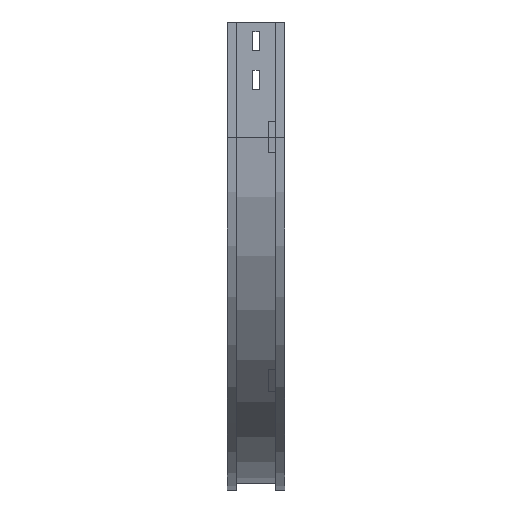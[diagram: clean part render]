
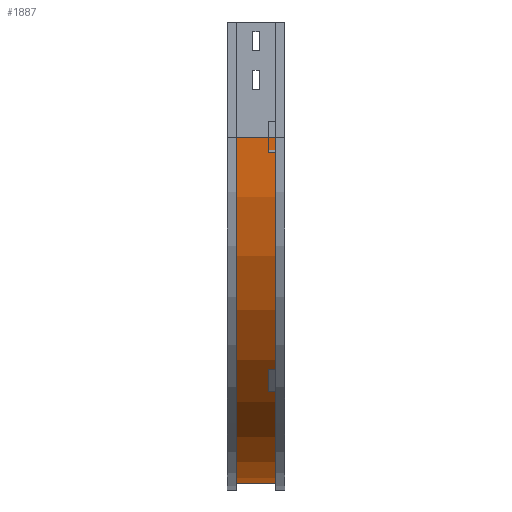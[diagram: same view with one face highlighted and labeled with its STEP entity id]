
A CAD part, left-side view. The second image highlights one B-rep face of the part: STEP entity #1887.
In plain terms, the highlighted cylindrical face has radius 450 mm (diameter 900 mm), a partial arc.
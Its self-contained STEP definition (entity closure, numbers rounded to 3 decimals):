
#27 = CYLINDRICAL_SURFACE ( 'NONE', #1033, 450. ) ;
#46 = CIRCLE ( 'NONE', #1699, 450. ) ;
#65 = EDGE_CURVE ( 'NONE', #896, #740, #2713, .T. ) ;
#85 = DIRECTION ( 'NONE',  ( 0., -1., 0. ) ) ;
#145 = ORIENTED_EDGE ( 'NONE', *, *, #339, .T. ) ;
#189 = ORIENTED_EDGE ( 'NONE', *, *, #2997, .T. ) ;
#246 = VECTOR ( 'NONE', #1841, 1000. ) ;
#280 = CARTESIAN_POINT ( 'NONE',  ( 459., 12., -600. ) ) ;
#339 = EDGE_CURVE ( 'NONE', #896, #3301, #46, .T. ) ;
#391 = EDGE_LOOP ( 'NONE', ( #2982, #1203, #145, #189 ) ) ;
#474 = DIRECTION ( 'NONE',  ( 0., -1., 0. ) ) ;
#499 = VERTEX_POINT ( 'NONE', #3297 ) ;
#670 = CARTESIAN_POINT ( 'NONE',  ( 459., 63., -150. ) ) ;
#740 = VERTEX_POINT ( 'NONE', #2921 ) ;
#755 = VECTOR ( 'NONE', #1605, 1000. ) ;
#896 = VERTEX_POINT ( 'NONE', #2670 ) ;
#1033 = AXIS2_PLACEMENT_3D ( 'NONE', #1088, #474, #2587 ) ;
#1088 = CARTESIAN_POINT ( 'NONE',  ( 459., 0., -150. ) ) ;
#1203 = ORIENTED_EDGE ( 'NONE', *, *, #65, .F. ) ;
#1287 = LINE ( 'NONE', #280, #246 ) ;
#1605 = DIRECTION ( 'NONE',  ( 0., -1., 0. ) ) ;
#1672 = AXIS2_PLACEMENT_3D ( 'NONE', #2733, #85, #2427 ) ;
#1699 = AXIS2_PLACEMENT_3D ( 'NONE', #670, #1963, #1751 ) ;
#1751 = DIRECTION ( 'NONE',  ( -1., 0., 0. ) ) ;
#1838 = CIRCLE ( 'NONE', #1672, 450. ) ;
#1841 = DIRECTION ( 'NONE',  ( 0., -1., 0. ) ) ;
#1887 = ADVANCED_FACE ( 'NONE', ( #2396 ), #27, .T. ) ;
#1963 = DIRECTION ( 'NONE',  ( 0., -1., 0. ) ) ;
#2396 = FACE_OUTER_BOUND ( 'NONE', #391, .T. ) ;
#2427 = DIRECTION ( 'NONE',  ( -1., 0., 0. ) ) ;
#2587 = DIRECTION ( 'NONE',  ( 0., 0., -1. ) ) ;
#2670 = CARTESIAN_POINT ( 'NONE',  ( 9., 63., -150. ) ) ;
#2713 = LINE ( 'NONE', #3219, #755 ) ;
#2733 = CARTESIAN_POINT ( 'NONE',  ( 459., 12., -150. ) ) ;
#2860 = EDGE_CURVE ( 'NONE', #740, #499, #1838, .T. ) ;
#2921 = CARTESIAN_POINT ( 'NONE',  ( 9., 12., -150. ) ) ;
#2982 = ORIENTED_EDGE ( 'NONE', *, *, #2860, .F. ) ;
#2997 = EDGE_CURVE ( 'NONE', #3301, #499, #1287, .T. ) ;
#3219 = CARTESIAN_POINT ( 'NONE',  ( 9., 12., -150. ) ) ;
#3297 = CARTESIAN_POINT ( 'NONE',  ( 459., 12., -600. ) ) ;
#3301 = VERTEX_POINT ( 'NONE', #3307 ) ;
#3307 = CARTESIAN_POINT ( 'NONE',  ( 459., 63., -600. ) ) ;
